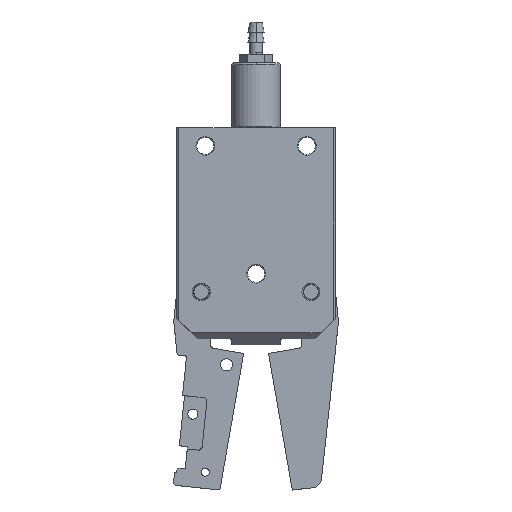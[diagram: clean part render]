
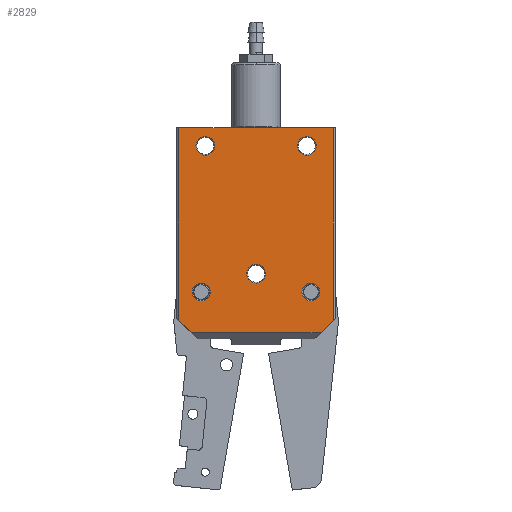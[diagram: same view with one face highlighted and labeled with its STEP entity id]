
A CAD part, top view. The second image highlights one B-rep face of the part: STEP entity #2829.
In plain terms, the highlighted planar face has unit normal (0, 0, 1).
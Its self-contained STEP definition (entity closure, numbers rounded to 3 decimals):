
#9 = AXIS2_PLACEMENT_3D ( 'NONE', #587, #1346, #2238 ) ;
#182 = ORIENTED_EDGE ( 'NONE', *, *, #2814, .T. ) ;
#250 = VERTEX_POINT ( 'NONE', #6616 ) ;
#326 = DIRECTION ( 'NONE',  ( 1., 0., 0. ) ) ;
#330 = CARTESIAN_POINT ( 'NONE',  ( 11.482, 19.628, 76.9 ) ) ;
#367 = CARTESIAN_POINT ( 'NONE',  ( -7.518, -18.672, 76.9 ) ) ;
#381 = DIRECTION ( 'NONE',  ( 0.707, 0.707, 0. ) ) ;
#416 = CARTESIAN_POINT ( 'NONE',  ( -20.018, 15.128, 76.9 ) ) ;
#426 = CARTESIAN_POINT ( 'NONE',  ( -26.518, -30.872, 76.9 ) ) ;
#440 = CARTESIAN_POINT ( 'NONE',  ( 8.482, -30.872, 76.9 ) ) ;
#461 = ORIENTED_EDGE ( 'NONE', *, *, #7621, .T. ) ;
#489 = CARTESIAN_POINT ( 'NONE',  ( 11.482, -27.872, 76.9 ) ) ;
#495 = FACE_BOUND ( 'NONE', #6608, .T. ) ;
#511 = FACE_BOUND ( 'NONE', #7526, .T. ) ;
#532 = ORIENTED_EDGE ( 'NONE', *, *, #1385, .T. ) ;
#587 = CARTESIAN_POINT ( 'NONE',  ( 5.982, -20.872, 76.9 ) ) ;
#616 = DIRECTION ( 'NONE',  ( 0., -1., 0. ) ) ;
#624 = DIRECTION ( 'NONE',  ( 0., 0., -1. ) ) ;
#634 = CARTESIAN_POINT ( 'NONE',  ( 5.982, -20.872, 76.9 ) ) ;
#821 = VERTEX_POINT ( 'NONE', #7314 ) ;
#922 = CARTESIAN_POINT ( 'NONE',  ( -23.518, -30.872, 76.9 ) ) ;
#984 = VECTOR ( 'NONE', #381, 1000. ) ;
#1110 = VECTOR ( 'NONE', #2361, 1000. ) ;
#1168 = ORIENTED_EDGE ( 'NONE', *, *, #6272, .T. ) ;
#1193 = DIRECTION ( 'NONE',  ( 0., 1., 0. ) ) ;
#1249 = ORIENTED_EDGE ( 'NONE', *, *, #2504, .T. ) ;
#1263 = DIRECTION ( 'NONE',  ( 0., 0., -1. ) ) ;
#1283 = VERTEX_POINT ( 'NONE', #4983 ) ;
#1336 = LINE ( 'NONE', #2400, #1110 ) ;
#1346 = DIRECTION ( 'NONE',  ( 0., 0., -1. ) ) ;
#1353 = CIRCLE ( 'NONE', #4950, 2.3 ) ;
#1356 = VERTEX_POINT ( 'NONE', #3292 ) ;
#1385 = EDGE_CURVE ( 'NONE', #2879, #821, #5372, .T. ) ;
#1425 = ORIENTED_EDGE ( 'NONE', *, *, #3986, .T. ) ;
#1436 = ORIENTED_EDGE ( 'NONE', *, *, #5935, .T. ) ;
#1500 = ORIENTED_EDGE ( 'NONE', *, *, #5982, .T. ) ;
#1574 = CARTESIAN_POINT ( 'NONE',  ( -7.518, -14.072, 76.9 ) ) ;
#1705 = DIRECTION ( 'NONE',  ( 1., 0., 0. ) ) ;
#1771 = DIRECTION ( 'NONE',  ( 1., 0., 0. ) ) ;
#1791 = DIRECTION ( 'NONE',  ( 0., 0., -1. ) ) ;
#1794 = CARTESIAN_POINT ( 'NONE',  ( -20.018, 15.128, 76.9 ) ) ;
#1797 = ORIENTED_EDGE ( 'NONE', *, *, #7008, .T. ) ;
#2053 = ORIENTED_EDGE ( 'NONE', *, *, #5508, .T. ) ;
#2062 = FACE_BOUND ( 'NONE', #6108, .T. ) ;
#2238 = DIRECTION ( 'NONE',  ( 0., -1., 0. ) ) ;
#2270 = ORIENTED_EDGE ( 'NONE', *, *, #3598, .T. ) ;
#2280 = ORIENTED_EDGE ( 'NONE', *, *, #2786, .T. ) ;
#2361 = DIRECTION ( 'NONE',  ( -1., 0., 0. ) ) ;
#2400 = CARTESIAN_POINT ( 'NONE',  ( -27.018, 19.628, 76.9 ) ) ;
#2425 = EDGE_LOOP ( 'NONE', ( #2868, #1797 ) ) ;
#2486 = VECTOR ( 'NONE', #6978, 1000. ) ;
#2492 = ORIENTED_EDGE ( 'NONE', *, *, #4453, .T. ) ;
#2500 = CIRCLE ( 'NONE', #6853, 2.2 ) ;
#2504 = EDGE_CURVE ( 'NONE', #250, #1283, #6012, .T. ) ;
#2655 = VERTEX_POINT ( 'NONE', #4243 ) ;
#2675 = CARTESIAN_POINT ( 'NONE',  ( 8.482, -30.872, 76.9 ) ) ;
#2781 = EDGE_LOOP ( 'NONE', ( #2053, #2280 ) ) ;
#2786 = EDGE_CURVE ( 'NONE', #1356, #3535, #6653, .T. ) ;
#2814 = EDGE_CURVE ( 'NONE', #5507, #3196, #5450, .T. ) ;
#2829 = ADVANCED_FACE ( 'NONE', ( #5942, #7432, #4054, #495, #2062, #511 ), #7063, .T. ) ;
#2868 = ORIENTED_EDGE ( 'NONE', *, *, #7139, .T. ) ;
#2879 = VERTEX_POINT ( 'NONE', #6808 ) ;
#2882 = CARTESIAN_POINT ( 'NONE',  ( -21.018, -23.072, 76.9 ) ) ;
#3096 = CARTESIAN_POINT ( 'NONE',  ( -22.318, 15.128, 76.9 ) ) ;
#3196 = VERTEX_POINT ( 'NONE', #4845 ) ;
#3227 = CIRCLE ( 'NONE', #4160, 2.3 ) ;
#3278 = DIRECTION ( 'NONE',  ( 0., 0., -1. ) ) ;
#3286 = DIRECTION ( 'NONE',  ( 0., -1., 0. ) ) ;
#3289 = DIRECTION ( 'NONE',  ( 0., 0., -1. ) ) ;
#3292 = CARTESIAN_POINT ( 'NONE',  ( -21.018, -18.672, 76.9 ) ) ;
#3294 = CARTESIAN_POINT ( 'NONE',  ( -21.018, -20.872, 76.9 ) ) ;
#3323 = CARTESIAN_POINT ( 'NONE',  ( -7.518, -16.372, 76.9 ) ) ;
#3386 = AXIS2_PLACEMENT_3D ( 'NONE', #7176, #7052, #7047 ) ;
#3390 = DIRECTION ( 'NONE',  ( 1., 0., 0. ) ) ;
#3433 = CARTESIAN_POINT ( 'NONE',  ( 7.282, 15.128, 76.9 ) ) ;
#3504 = VERTEX_POINT ( 'NONE', #3096 ) ;
#3535 = VERTEX_POINT ( 'NONE', #2882 ) ;
#3598 = EDGE_CURVE ( 'NONE', #4540, #2879, #1336, .T. ) ;
#3645 = AXIS2_PLACEMENT_3D ( 'NONE', #7108, #7105, #7100 ) ;
#3712 = EDGE_CURVE ( 'NONE', #3504, #2655, #4893, .T. ) ;
#3894 = VERTEX_POINT ( 'NONE', #922 ) ;
#3984 = VERTEX_POINT ( 'NONE', #367 ) ;
#3986 = EDGE_CURVE ( 'NONE', #3894, #6341, #6892, .T. ) ;
#4054 = FACE_BOUND ( 'NONE', #2425, .T. ) ;
#4138 = EDGE_CURVE ( 'NONE', #3196, #5507, #3227, .T. ) ;
#4160 = AXIS2_PLACEMENT_3D ( 'NONE', #7446, #4754, #3390 ) ;
#4243 = CARTESIAN_POINT ( 'NONE',  ( -17.718, 15.128, 76.9 ) ) ;
#4453 = EDGE_CURVE ( 'NONE', #2655, #3504, #6754, .T. ) ;
#4486 = DIRECTION ( 'NONE',  ( 0., 0., -1. ) ) ;
#4540 = VERTEX_POINT ( 'NONE', #330 ) ;
#4582 = CARTESIAN_POINT ( 'NONE',  ( 11.482, -30.872, 76.9 ) ) ;
#4683 = AXIS2_PLACEMENT_3D ( 'NONE', #416, #1263, #1705 ) ;
#4722 = DIRECTION ( 'NONE',  ( 0., -1., 0. ) ) ;
#4749 = DIRECTION ( 'NONE',  ( 0., -1., 0. ) ) ;
#4754 = DIRECTION ( 'NONE',  ( 0., 0., -1. ) ) ;
#4820 = CARTESIAN_POINT ( 'NONE',  ( -26.518, -30.872, 76.9 ) ) ;
#4845 = CARTESIAN_POINT ( 'NONE',  ( 2.682, 15.128, 76.9 ) ) ;
#4893 = CIRCLE ( 'NONE', #5388, 2.3 ) ;
#4950 = AXIS2_PLACEMENT_3D ( 'NONE', #3323, #3278, #5812 ) ;
#4983 = CARTESIAN_POINT ( 'NONE',  ( 5.982, -23.072, 76.9 ) ) ;
#5007 = LINE ( 'NONE', #5443, #2486 ) ;
#5105 = AXIS2_PLACEMENT_3D ( 'NONE', #6742, #4486, #4722 ) ;
#5372 = LINE ( 'NONE', #4820, #5436 ) ;
#5388 = AXIS2_PLACEMENT_3D ( 'NONE', #1794, #1791, #1771 ) ;
#5436 = VECTOR ( 'NONE', #4749, 1000. ) ;
#5443 = CARTESIAN_POINT ( 'NONE',  ( -26.518, -27.872, 76.9 ) ) ;
#5450 = CIRCLE ( 'NONE', #3645, 2.3 ) ;
#5507 = VERTEX_POINT ( 'NONE', #3433 ) ;
#5508 = EDGE_CURVE ( 'NONE', #3535, #1356, #6883, .T. ) ;
#5803 = AXIS2_PLACEMENT_3D ( 'NONE', #7287, #7282, #7281 ) ;
#5812 = DIRECTION ( 'NONE',  ( 0., -1., 0. ) ) ;
#5935 = EDGE_CURVE ( 'NONE', #1283, #250, #2500, .T. ) ;
#5942 = FACE_OUTER_BOUND ( 'NONE', #6920, .T. ) ;
#5982 = EDGE_CURVE ( 'NONE', #6341, #7498, #7607, .T. ) ;
#6000 = AXIS2_PLACEMENT_3D ( 'NONE', #3294, #3289, #3286 ) ;
#6012 = CIRCLE ( 'NONE', #9, 2.2 ) ;
#6108 = EDGE_LOOP ( 'NONE', ( #182, #7272 ) ) ;
#6272 = EDGE_CURVE ( 'NONE', #821, #3894, #5007, .T. ) ;
#6278 = VECTOR ( 'NONE', #1193, 1000. ) ;
#6341 = VERTEX_POINT ( 'NONE', #2675 ) ;
#6608 = EDGE_LOOP ( 'NONE', ( #1436, #1249 ) ) ;
#6616 = CARTESIAN_POINT ( 'NONE',  ( 5.982, -18.672, 76.9 ) ) ;
#6653 = CIRCLE ( 'NONE', #5803, 2.2 ) ;
#6742 = CARTESIAN_POINT ( 'NONE',  ( -7.518, -16.372, 76.9 ) ) ;
#6754 = CIRCLE ( 'NONE', #4683, 2.3 ) ;
#6808 = CARTESIAN_POINT ( 'NONE',  ( -26.518, 19.628, 76.9 ) ) ;
#6819 = LINE ( 'NONE', #4582, #6278 ) ;
#6853 = AXIS2_PLACEMENT_3D ( 'NONE', #634, #624, #616 ) ;
#6883 = CIRCLE ( 'NONE', #6000, 2.2 ) ;
#6892 = LINE ( 'NONE', #426, #7228 ) ;
#6920 = EDGE_LOOP ( 'NONE', ( #461, #2270, #532, #1168, #1425, #1500 ) ) ;
#6978 = DIRECTION ( 'NONE',  ( 0.707, -0.707, 0. ) ) ;
#6983 = CIRCLE ( 'NONE', #5105, 2.3 ) ;
#7008 = EDGE_CURVE ( 'NONE', #7454, #3984, #6983, .T. ) ;
#7047 = DIRECTION ( 'NONE',  ( 1., 0., 0. ) ) ;
#7052 = DIRECTION ( 'NONE',  ( 0., 0., 1. ) ) ;
#7063 = PLANE ( 'NONE',  #3386 ) ;
#7100 = DIRECTION ( 'NONE',  ( 1., 0., 0. ) ) ;
#7105 = DIRECTION ( 'NONE',  ( 0., 0., -1. ) ) ;
#7108 = CARTESIAN_POINT ( 'NONE',  ( 4.982, 15.128, 76.9 ) ) ;
#7139 = EDGE_CURVE ( 'NONE', #3984, #7454, #1353, .T. ) ;
#7176 = CARTESIAN_POINT ( 'NONE',  ( -26.518, -30.872, 76.9 ) ) ;
#7228 = VECTOR ( 'NONE', #326, 1000. ) ;
#7272 = ORIENTED_EDGE ( 'NONE', *, *, #4138, .T. ) ;
#7281 = DIRECTION ( 'NONE',  ( 0., -1., 0. ) ) ;
#7282 = DIRECTION ( 'NONE',  ( 0., 0., -1. ) ) ;
#7287 = CARTESIAN_POINT ( 'NONE',  ( -21.018, -20.872, 76.9 ) ) ;
#7314 = CARTESIAN_POINT ( 'NONE',  ( -26.518, -27.872, 76.9 ) ) ;
#7432 = FACE_BOUND ( 'NONE', #2781, .T. ) ;
#7446 = CARTESIAN_POINT ( 'NONE',  ( 4.982, 15.128, 76.9 ) ) ;
#7454 = VERTEX_POINT ( 'NONE', #1574 ) ;
#7498 = VERTEX_POINT ( 'NONE', #489 ) ;
#7526 = EDGE_LOOP ( 'NONE', ( #2492, #7586 ) ) ;
#7586 = ORIENTED_EDGE ( 'NONE', *, *, #3712, .T. ) ;
#7607 = LINE ( 'NONE', #440, #984 ) ;
#7621 = EDGE_CURVE ( 'NONE', #7498, #4540, #6819, .T. ) ;
